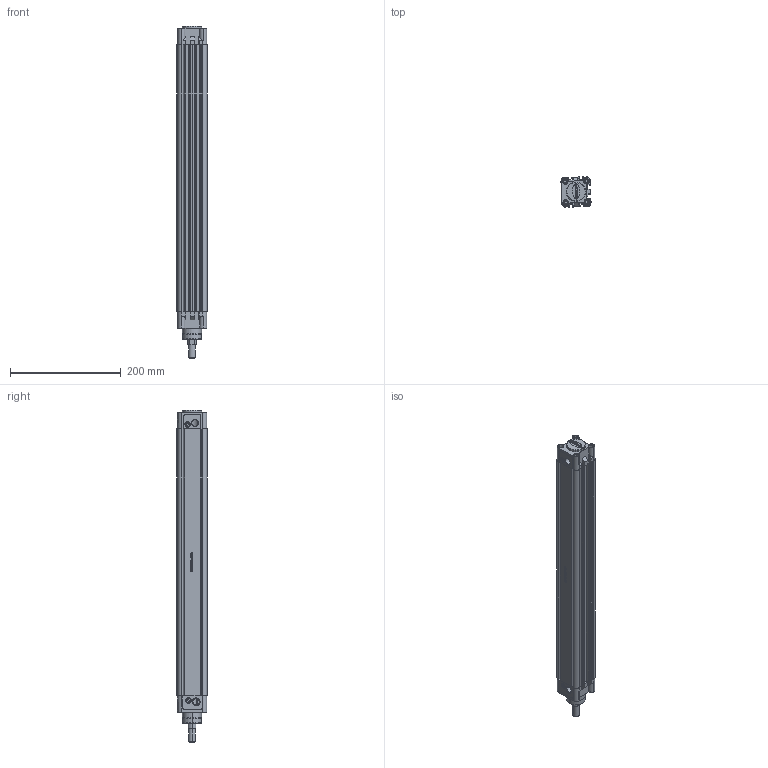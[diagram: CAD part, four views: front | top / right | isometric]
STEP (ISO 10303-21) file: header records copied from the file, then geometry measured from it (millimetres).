
FILE_DESCRIPTION (( 'STEP AP214' ), '1' );
FILE_NAME ('RIC_40_450_WEB.STEP', '2021-01-10T10:52:48', ( '' ), ( '' ), 'SwSTEP 2.0', 'SolidWorks 2021', '' );
FILE_SCHEMA (( 'AUTOMOTIVE_DESIGN' ));
Length unit declared in the file: millimetre
Products named in the file (8): 16_K_MIL_WEB; yastýklama civatasý; m6kapakcivatasi; RIC_40_450_WEB; RIC_40_BORU_WEB_RIC 40-250; ric40arkakapak; ric40bogazkecesi; ric40onkapak
Assembly tree (15 placements, depth 2):
  RIC_40_450_WEB
    ric40arkakapak
    ric40onkapak
    RIC_40_BORU_WEB_RIC 40-250
    ric40bogazkecesi
    yastýklama civatasý  x2
    m6kapakcivatasi  x8
    16_K_MIL_WEB
Bounding box: 54.22 x 54.22 x 599.5 mm (x, y, z)
Volume: 623140 mm3; surface area: 297046.9 mm2
Topology: 22 solids, 22 shells, 1035 faces, 2485 edges, 1585 vertices
Faces by surface type: plane 553, cylinder 227, cone 131, bspline 98, torus 26
Entity records: 31879 total; most frequent: CARTESIAN_POINT 10352, ORIENTED_EDGE 3982, DIRECTION 3656, EDGE_CURVE 1991, VERTEX_POINT 1289, LINE 1264, VECTOR 1264, AXIS2_PLACEMENT_3D 1196
